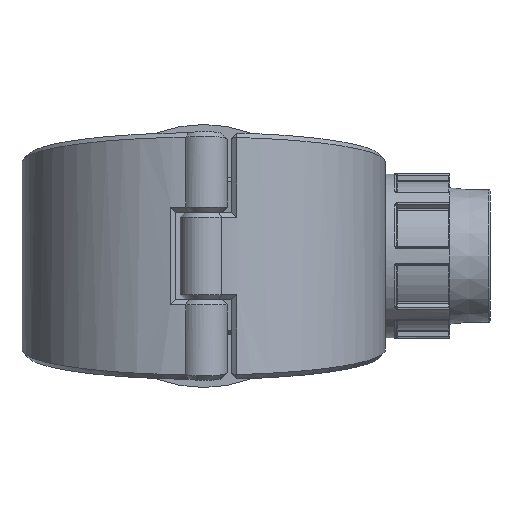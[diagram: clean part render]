
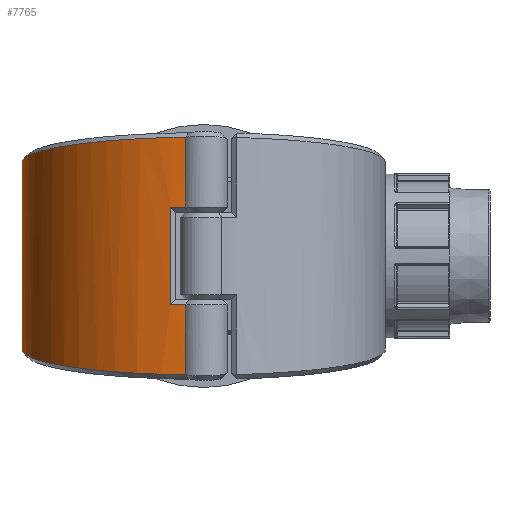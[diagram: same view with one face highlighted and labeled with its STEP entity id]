
A CAD part, front view. The second image highlights one B-rep face of the part: STEP entity #7765.
In plain terms, the highlighted cylindrical face has radius 70.5 mm (diameter 141 mm), a partial arc.
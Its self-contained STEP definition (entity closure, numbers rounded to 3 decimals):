
#263=CYLINDRICAL_SURFACE('',#8320,70.5);
#584=FACE_OUTER_BOUND('',#1104,.T.);
#1104=EDGE_LOOP('',(#5280,#5281,#5282,#5283,#5284,#5285,#5286,#5287,#5288,
#5289,#5290,#5291));
#1644=B_SPLINE_CURVE_WITH_KNOTS('',3,(#11843,#11844,#11845,#11846),
 .UNSPECIFIED.,.F.,.F.,(4,4),(-0.002,0.),.UNSPECIFIED.);
#1645=B_SPLINE_CURVE_WITH_KNOTS('',3,(#11848,#11849,#11850,#11851),
 .UNSPECIFIED.,.F.,.F.,(4,4),(-3.043,-3.043),
 .UNSPECIFIED.);
#1646=B_SPLINE_CURVE_WITH_KNOTS('',3,(#11853,#11854,#11855,#11856,#11857,
#11858,#11859,#11860,#11861,#11862),.UNSPECIFIED.,.F.,.F.,(4,1,1,1,1,1,
1,4),(0.316,0.619,1.025,1.431,
1.837,2.243,2.65,3.043),
 .UNSPECIFIED.);
#1647=B_SPLINE_CURVE_WITH_KNOTS('',3,(#11866,#11867,#11868,#11869,#11870,
#11871,#11872,#11873,#11874,#11875),.UNSPECIFIED.,.F.,.F.,(4,1,1,1,1,1,
1,4),(-3.043,-2.65,-2.243,-1.837,
-1.431,-1.025,-0.619,-0.316),
 .UNSPECIFIED.);
#1648=B_SPLINE_CURVE_WITH_KNOTS('',3,(#11877,#11878,#11879,#11880),
 .UNSPECIFIED.,.F.,.F.,(4,4),(3.043,3.043),
 .UNSPECIFIED.);
#1649=B_SPLINE_CURVE_WITH_KNOTS('',3,(#11882,#11883,#11884,#11885),
 .UNSPECIFIED.,.F.,.F.,(4,4),(-0.397,-0.395),
 .UNSPECIFIED.);
#1921=LINE('',#11777,#2291);
#1927=LINE('',#11841,#2297);
#1928=LINE('',#11864,#2298);
#1929=LINE('',#11886,#2299);
#2291=VECTOR('',#9336,10.);
#2297=VECTOR('',#9382,10.);
#2298=VECTOR('',#9383,10.);
#2299=VECTOR('',#9384,10.);
#2666=CIRCLE('',#8310,70.5);
#2669=CIRCLE('',#8315,70.5);
#3229=VERTEX_POINT('',#11771);
#3230=VERTEX_POINT('',#11776);
#3236=VERTEX_POINT('',#11797);
#3239=VERTEX_POINT('',#11818);
#3243=VERTEX_POINT('',#11840);
#3244=VERTEX_POINT('',#11842);
#3245=VERTEX_POINT('',#11847);
#3246=VERTEX_POINT('',#11852);
#3247=VERTEX_POINT('',#11863);
#3248=VERTEX_POINT('',#11865);
#3249=VERTEX_POINT('',#11876);
#3250=VERTEX_POINT('',#11881);
#3984=EDGE_CURVE('',#3229,#3230,#1921,.T.);
#3997=EDGE_CURVE('',#3236,#3229,#2666,.T.);
#4002=EDGE_CURVE('',#3230,#3239,#2669,.T.);
#4008=EDGE_CURVE('',#3243,#3236,#1927,.T.);
#4009=EDGE_CURVE('',#3244,#3243,#1644,.T.);
#4010=EDGE_CURVE('',#3244,#3245,#1645,.T.);
#4011=EDGE_CURVE('',#3246,#3245,#1646,.T.);
#4012=EDGE_CURVE('',#3247,#3246,#1928,.T.);
#4013=EDGE_CURVE('',#3248,#3247,#1647,.T.);
#4014=EDGE_CURVE('',#3248,#3249,#1648,.T.);
#4015=EDGE_CURVE('',#3250,#3249,#1649,.T.);
#4016=EDGE_CURVE('',#3239,#3250,#1929,.T.);
#5280=ORIENTED_EDGE('',*,*,#4002,.F.);
#5281=ORIENTED_EDGE('',*,*,#3984,.F.);
#5282=ORIENTED_EDGE('',*,*,#3997,.F.);
#5283=ORIENTED_EDGE('',*,*,#4008,.F.);
#5284=ORIENTED_EDGE('',*,*,#4009,.F.);
#5285=ORIENTED_EDGE('',*,*,#4010,.T.);
#5286=ORIENTED_EDGE('',*,*,#4011,.F.);
#5287=ORIENTED_EDGE('',*,*,#4012,.F.);
#5288=ORIENTED_EDGE('',*,*,#4013,.F.);
#5289=ORIENTED_EDGE('',*,*,#4014,.T.);
#5290=ORIENTED_EDGE('',*,*,#4015,.F.);
#5291=ORIENTED_EDGE('',*,*,#4016,.F.);
#7765=ADVANCED_FACE('',(#584),#263,.T.);
#8310=AXIS2_PLACEMENT_3D('',#11813,#9358,#9359);
#8315=AXIS2_PLACEMENT_3D('',#11827,#9368,#9369);
#8320=AXIS2_PLACEMENT_3D('',#11839,#9380,#9381);
#9336=DIRECTION('',(0.,0.,-1.));
#9358=DIRECTION('center_axis',(0.,0.,-1.));
#9359=DIRECTION('ref_axis',(0.312,-0.95,0.));
#9368=DIRECTION('center_axis',(0.,0.,1.));
#9369=DIRECTION('ref_axis',(0.312,-0.95,0.));
#9380=DIRECTION('center_axis',(0.,0.,1.));
#9381=DIRECTION('ref_axis',(-0.312,0.95,0.));
#9382=DIRECTION('',(0.,0.,-1.));
#9383=DIRECTION('',(0.,0.,1.));
#9384=DIRECTION('',(0.,0.,-1.));
#11771=CARTESIAN_POINT('',(-12.822,-69.324,18.975));
#11776=CARTESIAN_POINT('',(-12.822,-69.324,-18.975));
#11777=CARTESIAN_POINT('',(-12.822,-69.324,0.));
#11797=CARTESIAN_POINT('',(-6.922,-70.159,18.975));
#11813=CARTESIAN_POINT('Origin',(0.,0.,18.975));
#11818=CARTESIAN_POINT('',(-6.922,-70.159,-18.975));
#11827=CARTESIAN_POINT('Origin',(0.,0.,-18.975));
#11839=CARTESIAN_POINT('Origin',(0.,0.,0.));
#11840=CARTESIAN_POINT('',(-6.922,-70.159,46.052));
#11841=CARTESIAN_POINT('',(-6.922,-70.159,0.));
#11842=CARTESIAN_POINT('',(-6.906,-70.161,46.063));
#11843=CARTESIAN_POINT('Ctrl Pts',(-6.906,-70.16,
46.063));
#11844=CARTESIAN_POINT('Ctrl Pts',(-6.911,-70.16,
46.059));
#11845=CARTESIAN_POINT('Ctrl Pts',(-6.916,-70.159,
46.055));
#11846=CARTESIAN_POINT('Ctrl Pts',(-6.922,-70.159,
46.052));
#11847=CARTESIAN_POINT('',(-6.922,-70.159,46.063));
#11848=CARTESIAN_POINT('Ctrl Pts',(-6.906,-70.161,
46.063));
#11849=CARTESIAN_POINT('Ctrl Pts',(-6.912,-70.16,46.063));
#11850=CARTESIAN_POINT('Ctrl Pts',(-6.917,-70.16,
46.063));
#11851=CARTESIAN_POINT('Ctrl Pts',(-6.922,-70.159,
46.063));
#11852=CARTESIAN_POINT('',(-22.014,66.975,27.098));
#11853=CARTESIAN_POINT('Ctrl Pts',(-22.013,66.972,27.099));
#11854=CARTESIAN_POINT('Ctrl Pts',(-28.791,64.74,27.406));
#11855=CARTESIAN_POINT('Ctrl Pts',(-43.875,57.107,28.458));
#11856=CARTESIAN_POINT('Ctrl Pts',(-62.08,37.41,31.174));
#11857=CARTESIAN_POINT('Ctrl Pts',(-71.8,9.802,34.986));
#11858=CARTESIAN_POINT('Ctrl Pts',(-69.835,-19.355,
39.019));
#11859=CARTESIAN_POINT('Ctrl Pts',(-56.53,-45.322,
42.616));
#11860=CARTESIAN_POINT('Ctrl Pts',(-34.343,-63.73,45.17));
#11861=CARTESIAN_POINT('Ctrl Pts',(-16.083,-69.254,
45.937));
#11862=CARTESIAN_POINT('Ctrl Pts',(-6.922,-70.159,
46.063));
#11863=CARTESIAN_POINT('',(-22.014,66.975,-27.098));
#11864=CARTESIAN_POINT('',(-22.014,66.975,0.));
#11865=CARTESIAN_POINT('',(-6.922,-70.159,-46.063));
#11866=CARTESIAN_POINT('Ctrl Pts',(-6.922,-70.159,
-46.063));
#11867=CARTESIAN_POINT('Ctrl Pts',(-16.083,-69.254,
-45.937));
#11868=CARTESIAN_POINT('Ctrl Pts',(-34.34,-63.727,
-45.17));
#11869=CARTESIAN_POINT('Ctrl Pts',(-56.532,-45.324,
-42.617));
#11870=CARTESIAN_POINT('Ctrl Pts',(-69.835,-19.354,
-39.019));
#11871=CARTESIAN_POINT('Ctrl Pts',(-71.8,9.801,-34.986));
#11872=CARTESIAN_POINT('Ctrl Pts',(-62.08,37.41,-31.174));
#11873=CARTESIAN_POINT('Ctrl Pts',(-43.875,57.107,-28.458));
#11874=CARTESIAN_POINT('Ctrl Pts',(-28.791,64.74,-27.406));
#11875=CARTESIAN_POINT('Ctrl Pts',(-22.013,66.972,-27.099));
#11876=CARTESIAN_POINT('',(-6.906,-70.161,-46.063));
#11877=CARTESIAN_POINT('Ctrl Pts',(-6.922,-70.159,
-46.063));
#11878=CARTESIAN_POINT('Ctrl Pts',(-6.917,-70.16,
-46.063));
#11879=CARTESIAN_POINT('Ctrl Pts',(-6.912,-70.16,
-46.063));
#11880=CARTESIAN_POINT('Ctrl Pts',(-6.906,-70.161,
-46.063));
#11881=CARTESIAN_POINT('',(-6.922,-70.159,-46.052));
#11882=CARTESIAN_POINT('Ctrl Pts',(-6.922,-70.159,
-46.052));
#11883=CARTESIAN_POINT('Ctrl Pts',(-6.916,-70.159,
-46.055));
#11884=CARTESIAN_POINT('Ctrl Pts',(-6.911,-70.16,-46.059));
#11885=CARTESIAN_POINT('Ctrl Pts',(-6.906,-70.16,
-46.063));
#11886=CARTESIAN_POINT('',(-6.922,-70.159,0.));
